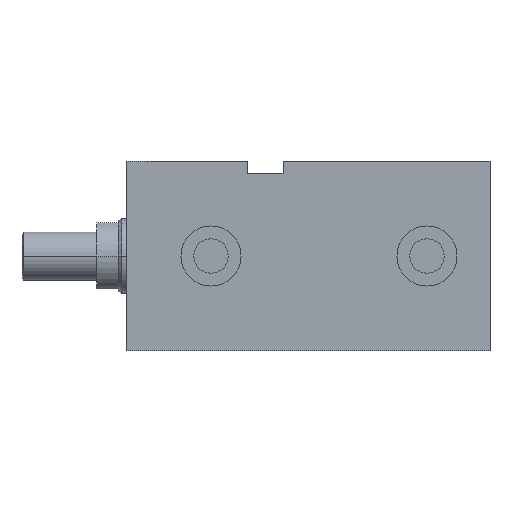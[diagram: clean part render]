
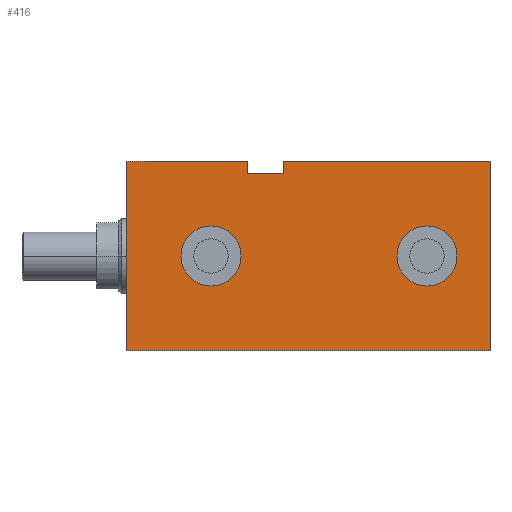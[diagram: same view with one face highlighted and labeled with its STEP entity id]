
A CAD part, left-side view. The second image highlights one B-rep face of the part: STEP entity #416.
In plain terms, the highlighted planar face has unit normal (-1, 0, 0).
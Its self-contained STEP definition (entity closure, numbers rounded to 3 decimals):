
#30 = DIRECTION ( 'NONE',  ( -1., 0., 0. ) ) ;
#65 = LINE ( 'NONE', #939, #1726 ) ;
#67 = LINE ( 'NONE', #2339, #1204 ) ;
#76 = CARTESIAN_POINT ( 'NONE',  ( -42.5, 93., 10. ) ) ;
#85 = EDGE_LOOP ( 'NONE', ( #2902, #2554 ) ) ;
#106 = FACE_OUTER_BOUND ( 'NONE', #1615, .T. ) ;
#141 = CARTESIAN_POINT ( 'NONE',  ( -42.5, 121., -31.5 ) ) ;
#202 = CARTESIAN_POINT ( 'NONE',  ( -42.5, 121., 31.5 ) ) ;
#203 = VERTEX_POINT ( 'NONE', #2408 ) ;
#373 = ORIENTED_EDGE ( 'NONE', *, *, #2624, .F. ) ;
#392 = CARTESIAN_POINT ( 'NONE',  ( -42.5, 21., 10. ) ) ;
#416 = ADVANCED_FACE ( 'NONE', ( #106, #1845, #649 ), #2455, .F. ) ;
#468 = CARTESIAN_POINT ( 'NONE',  ( -42.5, 21., 0. ) ) ;
#469 = EDGE_CURVE ( 'NONE', #1447, #1333, #513, .T. ) ;
#501 = CARTESIAN_POINT ( 'NONE',  ( -42.5, 81., 27.5 ) ) ;
#513 = CIRCLE ( 'NONE', #1499, 10. ) ;
#546 = CARTESIAN_POINT ( 'NONE',  ( -42.5, 69., 31.5 ) ) ;
#548 = CARTESIAN_POINT ( 'NONE',  ( -42.5, 21., 0. ) ) ;
#575 = DIRECTION ( 'NONE',  ( -1., 0., 0. ) ) ;
#595 = AXIS2_PLACEMENT_3D ( 'NONE', #661, #2238, #889 ) ;
#644 = CARTESIAN_POINT ( 'NONE',  ( -42.5, 69., 27.5 ) ) ;
#649 = FACE_BOUND ( 'NONE', #2940, .T. ) ;
#658 = EDGE_CURVE ( 'NONE', #1661, #203, #681, .T. ) ;
#661 = CARTESIAN_POINT ( 'NONE',  ( -42.5, 71., -31.5 ) ) ;
#681 = LINE ( 'NONE', #2662, #1807 ) ;
#732 = CIRCLE ( 'NONE', #1211, 10. ) ;
#759 = EDGE_CURVE ( 'NONE', #1700, #2511, #1077, .T. ) ;
#770 = DIRECTION ( 'NONE',  ( 0., 0., 1. ) ) ;
#839 = ORIENTED_EDGE ( 'NONE', *, *, #2073, .F. ) ;
#853 = DIRECTION ( 'NONE',  ( 0., 0., 1. ) ) ;
#886 = CARTESIAN_POINT ( 'NONE',  ( -42.5, 21., -10. ) ) ;
#889 = DIRECTION ( 'NONE',  ( 0., 0., -1. ) ) ;
#901 = DIRECTION ( 'NONE',  ( 0., -1., 0. ) ) ;
#939 = CARTESIAN_POINT ( 'NONE',  ( -42.5, 69., 27.5 ) ) ;
#943 = DIRECTION ( 'NONE',  ( 0., 0., 1. ) ) ;
#964 = CIRCLE ( 'NONE', #1136, 10. ) ;
#1010 = DIRECTION ( 'NONE',  ( 0., 0., 1. ) ) ;
#1015 = VECTOR ( 'NONE', #901, 1000. ) ;
#1057 = EDGE_CURVE ( 'NONE', #1333, #1447, #964, .T. ) ;
#1059 = CIRCLE ( 'NONE', #2694, 10. ) ;
#1077 = LINE ( 'NONE', #1568, #2743 ) ;
#1135 = DIRECTION ( 'NONE',  ( -1., 0., 0. ) ) ;
#1136 = AXIS2_PLACEMENT_3D ( 'NONE', #548, #2120, #770 ) ;
#1138 = CARTESIAN_POINT ( 'NONE',  ( -42.5, 0., 31.5 ) ) ;
#1204 = VECTOR ( 'NONE', #1430, 1000. ) ;
#1211 = AXIS2_PLACEMENT_3D ( 'NONE', #1381, #30, #1612 ) ;
#1306 = ORIENTED_EDGE ( 'NONE', *, *, #1616, .T. ) ;
#1332 = CARTESIAN_POINT ( 'NONE',  ( -42.5, 93., -10. ) ) ;
#1333 = VERTEX_POINT ( 'NONE', #392 ) ;
#1381 = CARTESIAN_POINT ( 'NONE',  ( -42.5, 93., 0. ) ) ;
#1383 = VERTEX_POINT ( 'NONE', #644 ) ;
#1409 = VERTEX_POINT ( 'NONE', #1332 ) ;
#1427 = LINE ( 'NONE', #2097, #2173 ) ;
#1430 = DIRECTION ( 'NONE',  ( 0., -1., 0. ) ) ;
#1447 = VERTEX_POINT ( 'NONE', #886 ) ;
#1478 = LINE ( 'NONE', #2252, #1015 ) ;
#1499 = AXIS2_PLACEMENT_3D ( 'NONE', #468, #1135, #1010 ) ;
#1568 = CARTESIAN_POINT ( 'NONE',  ( -42.5, 71., 31.5 ) ) ;
#1612 = DIRECTION ( 'NONE',  ( 0., 0., 1. ) ) ;
#1615 = EDGE_LOOP ( 'NONE', ( #2807, #373, #839, #2853, #1680, #2136, #2366, #1306 ) ) ;
#1616 = EDGE_CURVE ( 'NONE', #1873, #2511, #2179, .T. ) ;
#1661 = VERTEX_POINT ( 'NONE', #501 ) ;
#1680 = ORIENTED_EDGE ( 'NONE', *, *, #2476, .F. ) ;
#1700 = VERTEX_POINT ( 'NONE', #546 ) ;
#1707 = EDGE_CURVE ( 'NONE', #2283, #2470, #1427, .T. ) ;
#1726 = VECTOR ( 'NONE', #2759, 1000. ) ;
#1729 = VECTOR ( 'NONE', #2818, 1000. ) ;
#1788 = DIRECTION ( 'NONE',  ( 0., -1., 0. ) ) ;
#1795 = LINE ( 'NONE', #2582, #1729 ) ;
#1807 = VECTOR ( 'NONE', #853, 1000. ) ;
#1845 = FACE_BOUND ( 'NONE', #85, .T. ) ;
#1867 = DIRECTION ( 'NONE',  ( 0., 0., 1. ) ) ;
#1873 = VERTEX_POINT ( 'NONE', #2646 ) ;
#1919 = CARTESIAN_POINT ( 'NONE',  ( -42.5, 93., 0. ) ) ;
#2010 = ORIENTED_EDGE ( 'NONE', *, *, #2569, .F. ) ;
#2068 = VERTEX_POINT ( 'NONE', #76 ) ;
#2073 = EDGE_CURVE ( 'NONE', #1661, #1383, #67, .T. ) ;
#2097 = CARTESIAN_POINT ( 'NONE',  ( -42.5, 121., -31.5 ) ) ;
#2120 = DIRECTION ( 'NONE',  ( -1., 0., 0. ) ) ;
#2136 = ORIENTED_EDGE ( 'NONE', *, *, #1707, .F. ) ;
#2138 = EDGE_CURVE ( 'NONE', #2283, #1873, #1795, .T. ) ;
#2146 = DIRECTION ( 'NONE',  ( 0., 0., 1. ) ) ;
#2173 = VECTOR ( 'NONE', #1867, 1000. ) ;
#2179 = LINE ( 'NONE', #2523, #2722 ) ;
#2214 = EDGE_CURVE ( 'NONE', #1409, #2068, #1059, .T. ) ;
#2238 = DIRECTION ( 'NONE',  ( 1., 0., 0. ) ) ;
#2252 = CARTESIAN_POINT ( 'NONE',  ( -42.5, 71., 31.5 ) ) ;
#2283 = VERTEX_POINT ( 'NONE', #141 ) ;
#2339 = CARTESIAN_POINT ( 'NONE',  ( -42.5, 81., 27.5 ) ) ;
#2366 = ORIENTED_EDGE ( 'NONE', *, *, #2138, .T. ) ;
#2408 = CARTESIAN_POINT ( 'NONE',  ( -42.5, 81., 31.5 ) ) ;
#2455 = PLANE ( 'NONE',  #595 ) ;
#2470 = VERTEX_POINT ( 'NONE', #202 ) ;
#2476 = EDGE_CURVE ( 'NONE', #2470, #203, #1478, .T. ) ;
#2511 = VERTEX_POINT ( 'NONE', #1138 ) ;
#2523 = CARTESIAN_POINT ( 'NONE',  ( -42.5, 0., -31.5 ) ) ;
#2554 = ORIENTED_EDGE ( 'NONE', *, *, #469, .F. ) ;
#2569 = EDGE_CURVE ( 'NONE', #2068, #1409, #732, .T. ) ;
#2582 = CARTESIAN_POINT ( 'NONE',  ( -42.5, 71., -31.5 ) ) ;
#2624 = EDGE_CURVE ( 'NONE', #1383, #1700, #65, .T. ) ;
#2646 = CARTESIAN_POINT ( 'NONE',  ( -42.5, 0., -31.5 ) ) ;
#2662 = CARTESIAN_POINT ( 'NONE',  ( -42.5, 81., 27.5 ) ) ;
#2694 = AXIS2_PLACEMENT_3D ( 'NONE', #1919, #575, #2146 ) ;
#2722 = VECTOR ( 'NONE', #943, 1000. ) ;
#2743 = VECTOR ( 'NONE', #1788, 1000. ) ;
#2759 = DIRECTION ( 'NONE',  ( 0., 0., 1. ) ) ;
#2807 = ORIENTED_EDGE ( 'NONE', *, *, #759, .F. ) ;
#2818 = DIRECTION ( 'NONE',  ( 0., -1., 0. ) ) ;
#2853 = ORIENTED_EDGE ( 'NONE', *, *, #658, .T. ) ;
#2881 = ORIENTED_EDGE ( 'NONE', *, *, #2214, .F. ) ;
#2902 = ORIENTED_EDGE ( 'NONE', *, *, #1057, .F. ) ;
#2940 = EDGE_LOOP ( 'NONE', ( #2010, #2881 ) ) ;
